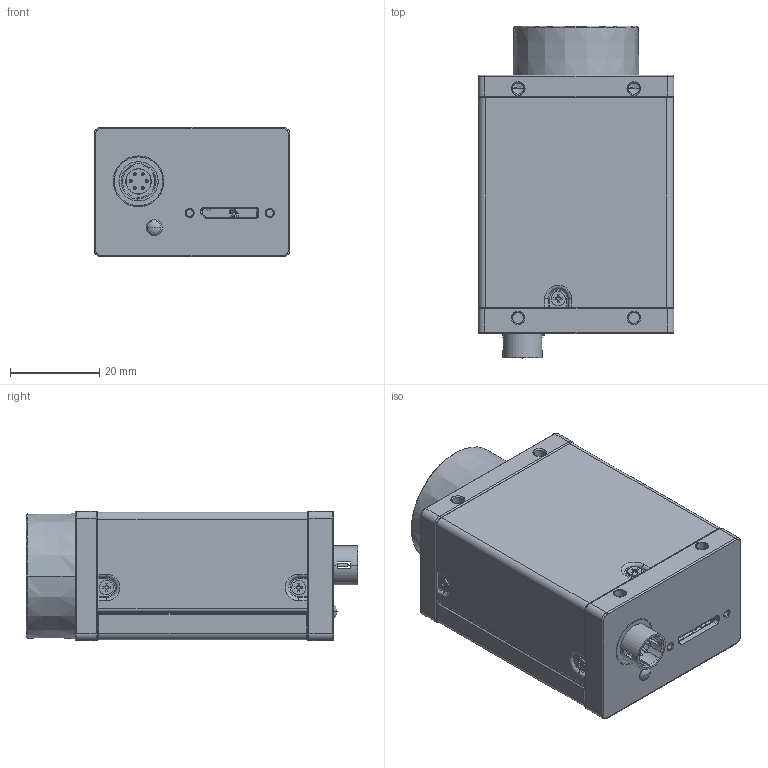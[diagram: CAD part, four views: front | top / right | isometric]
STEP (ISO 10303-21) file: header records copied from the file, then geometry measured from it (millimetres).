
FILE_DESCRIPTION((''),'2;1');
FILE_NAME('SHAUNGUSB-USB_1','2025-04-12T10:04:55',('331929'),(''),'CREO PARAMETRIC BY PTC INC, 2020184','CREO PARAMETRIC BY PTC INC, 2020184','');
FILE_SCHEMA(('CONFIG_CONTROL_DESIGN','SHAPE_APPEARANCE_LAYERS_GROUPS'));
Products named in the file (1): SHAUNGUSB-USB_1
Bounding box: 44 x 74.55 x 29 mm (x, y, z)
Volume: 70443.3 mm3; surface area: 26796 mm2
Topology: 2 solids, 61 shells, 2316 faces, 6484 edges, 4233 vertices
Faces by surface type: plane 1207, cylinder 778, cone 144, bspline 89, torus 88, extrusion 8, sphere 2
Entity records: 103244 total; most frequent: CARTESIAN_POINT 18668, ORIENTED_EDGE 12782, DIRECTION 12134, PRESENTATION_STYLE_ASSIGNMENT 7174, STYLED_ITEM 6510, CURVE_STYLE 6469, EDGE_CURVE 6469, VERTEX_POINT 4234
